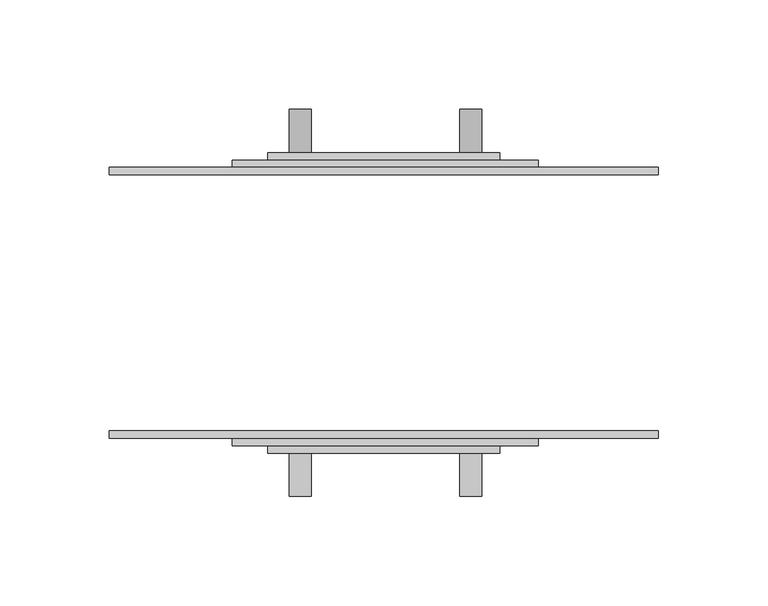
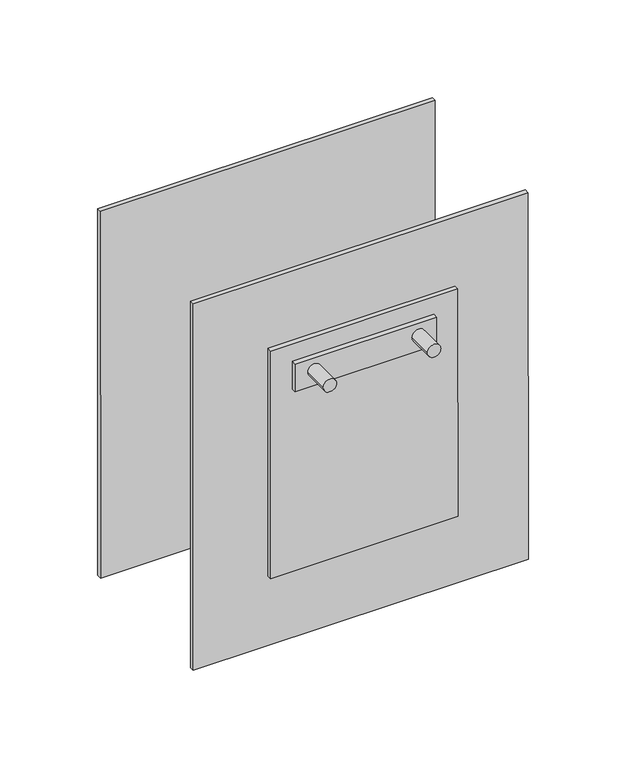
"""IFC4 building model written with IfcOpenShell, lengths in millimetres: proxy geometry, Distribution_Socket_Single_rotated : Distribution_Socket_Single_rotated."""

from ifc_helpers import new_model, si_unit, point, frame, frame_2d, origin, place, context, project, spatial, polyline, circle_curve, trimmed, segment, composite_curve, outline, extrude, source, transform, mapped, element, save


def electrical_equipment_a8f8fa65(model_context):
    return source(origin(), model_context, "Body", "SweptSolid", [
        extrude(outline(composite_curve([segment(trimmed(circle_curve(frame_2d((65.9108106, -38.3495044)), 5.0), [point((65.9071337, -43.349503))], [point((65.9144874, -33.3495057))], False, "CARTESIAN"), True, "CONTINUOUS"), segment(trimmed(circle_curve(frame_2d((65.9108106, -38.3495044)), 5.0), [point((65.9144874, -33.3495057))], [point((65.9071337, -43.349503))], False, "CARTESIAN"), True, "CONTINUOUS")], self_intersect=False)), frame((0.0, 67.5, 0.0), z_axis=(0.0, 1.0, 0.0), x_axis=(0.0, 0.0, 1.0)), (0.0, 0.0, 1.0), 20.9),
        extrude(outline(composite_curve([segment(trimmed(circle_curve(frame_2d((65.9681666, 39.6461612)), 5.0), [point((65.9644897, 34.6461626))], [point((65.9718434, 44.6461599))], False, "CARTESIAN"), True, "CONTINUOUS"), segment(trimmed(circle_curve(frame_2d((65.9681666, 39.6461612)), 5.0), [point((65.9718434, 44.6461599))], [point((65.9644897, 34.6461626))], False, "CARTESIAN"), True, "CONTINUOUS")], self_intersect=False)), frame((0.0, 67.5, 0.0), z_axis=(0.0, 1.0, 0.0), x_axis=(0.0, 0.0, 1.0)), (0.0, 0.0, 1.0), 20.9),
        extrude(outline(composite_curve([segment(trimmed(circle_curve(frame_2d((65.9108106, -38.3495044)), 5.0), [point((65.9071337, -43.349503))], [point((65.9144874, -33.3495057))], False, "CARTESIAN"), True, "CONTINUOUS"), segment(trimmed(circle_curve(frame_2d((65.9108106, -38.3495044)), 5.0), [point((65.9144874, -33.3495057))], [point((65.9071337, -43.349503))], False, "CARTESIAN"), True, "CONTINUOUS")], self_intersect=False)), frame((0.0, -88.4, 0.0), z_axis=(0.0, 1.0, 0.0), x_axis=(0.0, 0.0, 1.0)), (0.0, 0.0, 1.0), 20.9),
        extrude(outline(composite_curve([segment(trimmed(circle_curve(frame_2d((65.9681666, 39.6461612)), 5.0), [point((65.9644897, 34.6461626))], [point((65.9718434, 44.6461599))], False, "CARTESIAN"), True, "CONTINUOUS"), segment(trimmed(circle_curve(frame_2d((65.9681666, 39.6461612)), 5.0), [point((65.9718434, 44.6461599))], [point((65.9644897, 34.6461626))], False, "CARTESIAN"), True, "CONTINUOUS")], self_intersect=False)), frame((0.0, -88.4, 0.0), z_axis=(0.0, 1.0, 0.0), x_axis=(0.0, 0.0, 1.0)), (0.0, 0.0, 1.0), 20.9),
        extrude(outline(polyline([(106.0000706, 0.0), (106.0000706, -3.3705022), (0.0, -3.3705022), (0.0, 0.0), (106.0000706, 0.0)])), frame((-53.0397311, 68.6115, 53.9610106), z_axis=(-0.0007353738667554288, 0.0, 0.9999997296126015), x_axis=(0.9999997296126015, 0.0, 0.0007353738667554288)), (0.0, 0.0, 1.0), 22.0),
        extrude(outline(polyline([(106.0000706, -137.223), (0.0, -137.223), (0.0, -133.8524978), (106.0000706, -133.8524978), (106.0000706, -137.223)])), frame((-53.0397311, 68.6115, 53.9610106), z_axis=(-0.0007353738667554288, 0.0, 0.9999997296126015), x_axis=(0.9999997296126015, 0.0, 0.0007353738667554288)), (0.0, 0.0, 1.0), 22.0),
        extrude(outline(polyline([(3.3704978, 0.0), (3.3704978, -140.0000302), (0.0, -140.0000302), (0.0, 0.0), (3.3704978, 0.0)])), frame((-69.3139377, 61.8705, -90.050996), z_axis=(-0.0007353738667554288, 0.0, 0.9999997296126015), x_axis=(0.0, 1.0, 0.0)), (0.0, 0.0, 1.0), 180.0),
        extrude(outline(polyline([(-127.1114978, 0.0), (-123.7410004, 0.0), (-123.7410004, -140.0000302), (-127.1114978, -140.0000302), (-127.1114978, 0.0)])), frame((-69.3139377, 61.8705, -90.050996), z_axis=(-0.0007353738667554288, 0.0, 0.9999997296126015), x_axis=(0.0, 1.0, 0.0)), (0.0, 0.0, 1.0), 180.0),
        extrude(outline(polyline([(250.7451946, 0.0), (250.7451946, -3.3705), (0.0, -3.3705), (0.0, 0.0), (250.7451946, 0.0)])), frame((-125.2659342, 61.8705, -145.0921565), z_axis=(-0.0007353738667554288, 0.0, 0.9999997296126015), x_axis=(0.9999997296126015, 0.0, 0.0007353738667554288)), (0.0, 0.0, 1.0), 290.0),
        extrude(outline(polyline([(0.0, -123.7410004), (0.0, -120.3705), (250.7451946, -120.3705), (250.7451946, -123.7410004), (0.0, -123.7410004)])), frame((-125.2659342, 61.8705, -145.0921565), z_axis=(-0.0007353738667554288, 0.0, 0.9999997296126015), x_axis=(0.9999997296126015, 0.0, 0.0007353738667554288)), (0.0, 0.0, 1.0), 290.0),
    ])


if __name__ == "__main__":
    model = new_model("IFC4")
    model_context = context("Model", 3, world=origin())
    ifc_project = project(units=[si_unit("LENGTHUNIT", "METRE", prefix="MILLI")], contexts=[model_context])
    site = spatial("IfcSite", under=ifc_project)
    building = spatial("IfcBuilding", under=site)
    placement = place(None, origin())
    electrical_equipment_shape = electrical_equipment_a8f8fa65(model_context)
    element("IfcBuildingElementProxy", 1, Name="Distribution_Socket_Single_rotated : Distribution_Socket_Single_rotated", ObjectType="Distribution_Socket_Single_rotated : Distribution_Socket_Single_rotated", at=placement, inside=building, context=model_context, shape_type="MappedRepresentation", body=[
        mapped(electrical_equipment_shape, transform((0.0, 0.0, 0.0), x_axis=(1.0, 0.0, 0.0), y_axis=(0.0, 1.0, 0.0), z_axis=(0.0, 0.0, 1.0))),
    ])
    save(model, "model.ifc")
